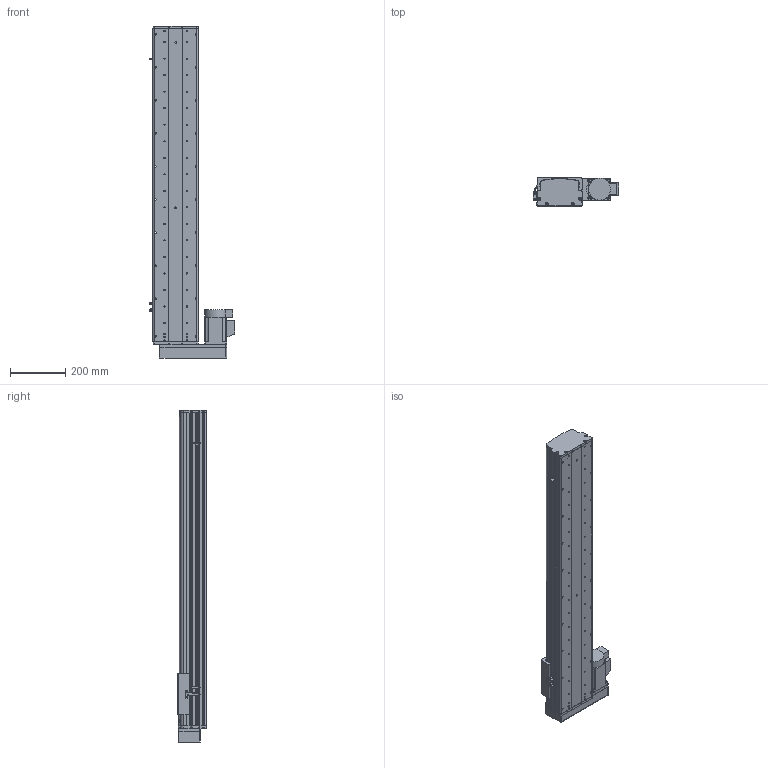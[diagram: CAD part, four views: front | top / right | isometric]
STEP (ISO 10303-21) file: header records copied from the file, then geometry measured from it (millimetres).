
FILE_DESCRIPTION (( 'STEP AP214' ), '1' );
FILE_NAME ('KSD165S-S900-ML-CM .STEP', '2017-10-17T09:00:30', ( '微软用户' ), ( '微软中国' ), 'SwSTEP 2.0', 'SolidWorks 2014', '' );
FILE_SCHEMA (( 'AUTOMOTIVE_DESIGN' ));
Length unit declared in the file: millimetre
Products named in the file (16): HTPA26S5M250-A-H8丝杆用(内径14）; HTPA26S5M250-A-H8 750W萇儂蚚; 165宽模组马达安装板连板左右折丝杆; 165宽模组保护罩左右折; KSD165模组-防尘盖1-900行程-最新版; KSD165模组底板-900行程-最新; KSD165耀郪-佪裝-滅袉菜-3 -; KSD165耀郪-佪裝-滅袉菜-1; U倰嫖萇假蚾璃; KSD165耀郪-綴傷啣1; KSD165模组-丝杆滑动座-最新版; KSD165S-S900-ML-CM ; 覜茼え68遵圉猾敕; U倰嫖萇EEㄜSX672; 拸秶雄ん750W侜督萇儂; KSD165模组-丝杆上下左右折前端板
Assembly tree (19 placements, depth 2):
  KSD165S-S900-ML-CM 
    KSD165模组-丝杆滑动座-最新版
    KSD165耀郪-綴傷啣1
    U倰嫖萇假蚾璃  x3
    KSD165耀郪-佪裝-滅袉菜-1
    KSD165耀郪-佪裝-滅袉菜-3 -
    KSD165模组底板-900行程-最新
    KSD165模组-防尘盖1-900行程-最新版
    165宽模组保护罩左右折
    165宽模组马达安装板连板左右折丝杆
    HTPA26S5M250-A-H8 750W萇儂蚚
    HTPA26S5M250-A-H8丝杆用(内径14）
    KSD165模组-丝杆上下左右折前端板
    拸秶雄ん750W侜督萇儂
    U倰嫖萇EEㄜSX672  x3
    覜茼え68遵圉猾敕
Bounding box: 311.2 x 104 x 1205.5 mm (x, y, z)
Volume: 7419148.3 mm3; surface area: 1722214.9 mm2
Topology: 20 solids, 20 shells, 1845 faces, 5240 edges, 3427 vertices
Faces by surface type: cylinder 1199, plane 545, cone 101
Entity records: 60803 total; most frequent: CARTESIAN_POINT 12691, DIRECTION 9795, ORIENTED_EDGE 9168, EDGE_CURVE 4584, AXIS2_PLACEMENT_3D 3843, VERTEX_POINT 3019, CIRCLE 2196, VECTOR 2109
